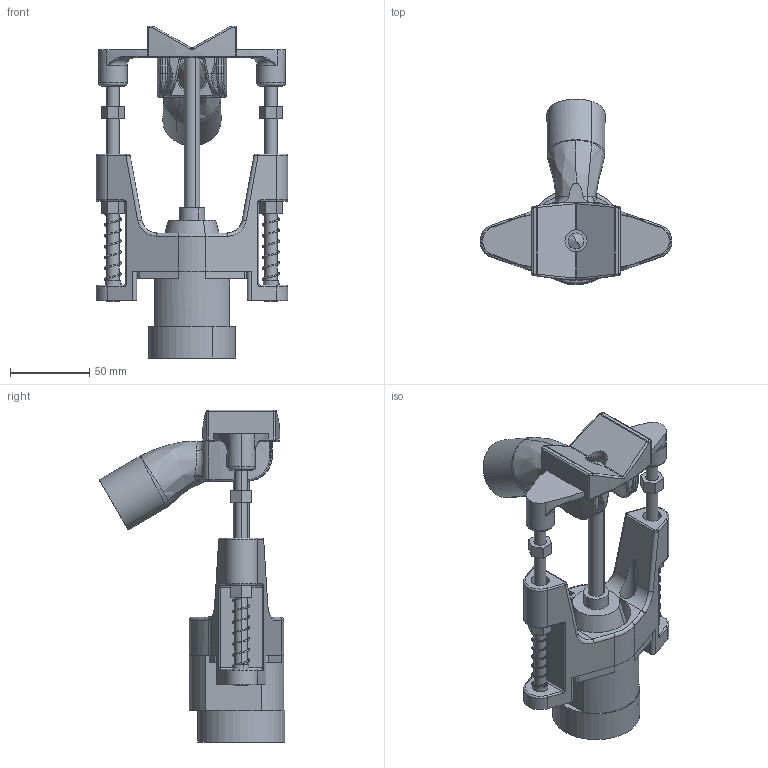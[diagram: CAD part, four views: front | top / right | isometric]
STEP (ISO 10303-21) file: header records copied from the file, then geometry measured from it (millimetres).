
FILE_DESCRIPTION(('FreeCAD Model'),'2;1');
FILE_NAME('/home/ben/Téléchargements/stl/The ultimate drill improvement kit.step','2017-03-20T02:04:23',('FreeCAD'),('FreeCAD'), 'Open CASCADE STEP processor 6.7','FreeCAD','Unknown');
FILE_SCHEMA(('AUTOMOTIVE_DESIGN_CC2 { 1 2 10303 214 -1 1 5 4 }'));
Length unit declared in the file: millimetre
Products named in the file (14): The_ultimate_drill_improvement_kit; The_ultimate_drill_improvement_kit004; The_ultimate_drill_improvement_kit010; The_ultimate_drill_improvement_kit011; The_ultimate_drill_improvement_kit008; The_ultimate_drill_improvement_kit007; The_ultimate_drill_improvement_kit012; The_ultimate_drill_improvement_kit009; The_ultimate_drill_improvement_kit006; The_ultimate_drill_improvement_kit002; The_ultimate_drill_improvement_kit013; The_ultimate_drill_improvement_kit005; The_ultimate_drill_improvement_kit003; The_ultimate_drill_improvement_kit001
Bounding box: 121.3 x 117.31 x 210 mm (x, y, z)
Volume: 386576.1 mm3; surface area: 120987 mm2
Topology: 14 solids, 14 shells, 493 faces, 1224 edges, 742 vertices
Faces by surface type: cylinder 181, plane 129, bspline 106, torus 47, sphere 20, revolution 6, cone 4
Entity records: 62182 total; most frequent: CARTESIAN_POINT 38556, DIRECTION 2611, ORIENTED_EDGE 2404, PCURVE 2404, DEFINITIONAL_REPRESENTATION 2404, B_SPLINE_CURVE_WITH_KNOTS 2078, EDGE_CURVE 1202, SURFACE_CURVE 1202
